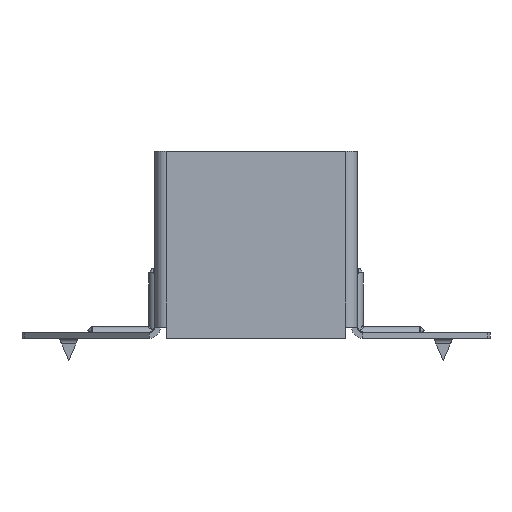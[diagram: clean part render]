
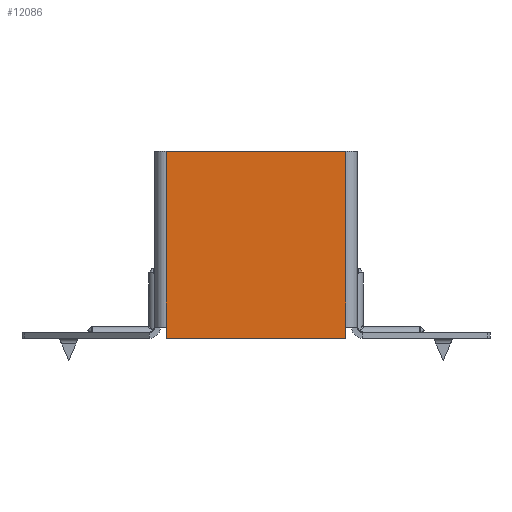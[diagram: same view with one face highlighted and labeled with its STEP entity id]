
A CAD part, front view. The second image highlights one B-rep face of the part: STEP entity #12086.
In plain terms, the highlighted planar face has unit normal (0, -1, 0).
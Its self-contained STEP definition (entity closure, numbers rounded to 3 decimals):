
#1616 = AXIS2_PLACEMENT_3D ( 'NONE', #19855, #20093, #21862 ) ;
#1926 = VECTOR ( 'NONE', #19380, 1000. ) ;
#2418 = ORIENTED_EDGE ( 'NONE', *, *, #3788, .T. ) ;
#2540 = LINE ( 'NONE', #18175, #15034 ) ;
#3788 = EDGE_CURVE ( 'NONE', #18328, #16107, #7502, .T. ) ;
#3793 = VERTEX_POINT ( 'NONE', #7278 ) ;
#4558 = FACE_OUTER_BOUND ( 'NONE', #13824, .T. ) ;
#4703 = CARTESIAN_POINT ( 'NONE',  ( 0., 0., -20. ) ) ;
#4754 = VERTEX_POINT ( 'NONE', #22743 ) ;
#5075 = CARTESIAN_POINT ( 'NONE',  ( 24., 0., -70. ) ) ;
#5103 = VECTOR ( 'NONE', #22187, 1000. ) ;
#6272 = DIRECTION ( 'NONE',  ( -1., 0., 0. ) ) ;
#7278 = CARTESIAN_POINT ( 'NONE',  ( -24., 0., -70. ) ) ;
#7502 = LINE ( 'NONE', #5075, #1926 ) ;
#7760 = ORIENTED_EDGE ( 'NONE', *, *, #14569, .T. ) ;
#9018 = LINE ( 'NONE', #4703, #11484 ) ;
#9580 = VERTEX_POINT ( 'NONE', #19948 ) ;
#9710 = CARTESIAN_POINT ( 'NONE',  ( -24., 0., -67. ) ) ;
#11484 = VECTOR ( 'NONE', #6272, 1000. ) ;
#11612 = CARTESIAN_POINT ( 'NONE',  ( -24., 0., 0. ) ) ;
#12086 = ADVANCED_FACE ( 'NONE', ( #4558 ), #19943, .F. ) ;
#12800 = EDGE_CURVE ( 'NONE', #16937, #3793, #14561, .T. ) ;
#13531 = DIRECTION ( 'NONE',  ( 0., 0., -1. ) ) ;
#13824 = EDGE_LOOP ( 'NONE', ( #22466, #18762, #22890, #14937, #7760, #2418 ) ) ;
#13884 = VECTOR ( 'NONE', #13531, 1000. ) ;
#14458 = LINE ( 'NONE', #11612, #13884 ) ;
#14561 = LINE ( 'NONE', #22024, #5103 ) ;
#14569 = EDGE_CURVE ( 'NONE', #9580, #18328, #18442, .T. ) ;
#14751 = EDGE_CURVE ( 'NONE', #16107, #4754, #9018, .T. ) ;
#14840 = VECTOR ( 'NONE', #19774, 1000. ) ;
#14937 = ORIENTED_EDGE ( 'NONE', *, *, #16088, .F. ) ;
#15034 = VECTOR ( 'NONE', #17770, 1000. ) ;
#16088 = EDGE_CURVE ( 'NONE', #9580, #3793, #2540, .T. ) ;
#16107 = VERTEX_POINT ( 'NONE', #19395 ) ;
#16536 = EDGE_CURVE ( 'NONE', #4754, #16937, #14458, .T. ) ;
#16937 = VERTEX_POINT ( 'NONE', #9710 ) ;
#17467 = CARTESIAN_POINT ( 'NONE',  ( 24., 0., -67. ) ) ;
#17770 = DIRECTION ( 'NONE',  ( -1., 0., 0. ) ) ;
#17981 = CARTESIAN_POINT ( 'NONE',  ( 24., 0., -70. ) ) ;
#18175 = CARTESIAN_POINT ( 'NONE',  ( -25.5, 0., -70. ) ) ;
#18328 = VERTEX_POINT ( 'NONE', #17467 ) ;
#18442 = LINE ( 'NONE', #17981, #14840 ) ;
#18762 = ORIENTED_EDGE ( 'NONE', *, *, #16536, .T. ) ;
#19380 = DIRECTION ( 'NONE',  ( 0., 0., 1. ) ) ;
#19395 = CARTESIAN_POINT ( 'NONE',  ( 24., 0., -20. ) ) ;
#19774 = DIRECTION ( 'NONE',  ( 0., 0., 1. ) ) ;
#19855 = CARTESIAN_POINT ( 'NONE',  ( 0., 0., 0. ) ) ;
#19943 = PLANE ( 'NONE',  #1616 ) ;
#19948 = CARTESIAN_POINT ( 'NONE',  ( 24., 0., -70. ) ) ;
#20093 = DIRECTION ( 'NONE',  ( 0., 1., 0. ) ) ;
#21862 = DIRECTION ( 'NONE',  ( 0., 0., 1. ) ) ;
#22024 = CARTESIAN_POINT ( 'NONE',  ( -24., 0., 0. ) ) ;
#22187 = DIRECTION ( 'NONE',  ( 0., 0., -1. ) ) ;
#22466 = ORIENTED_EDGE ( 'NONE', *, *, #14751, .T. ) ;
#22743 = CARTESIAN_POINT ( 'NONE',  ( -24., 0., -20. ) ) ;
#22890 = ORIENTED_EDGE ( 'NONE', *, *, #12800, .T. ) ;
